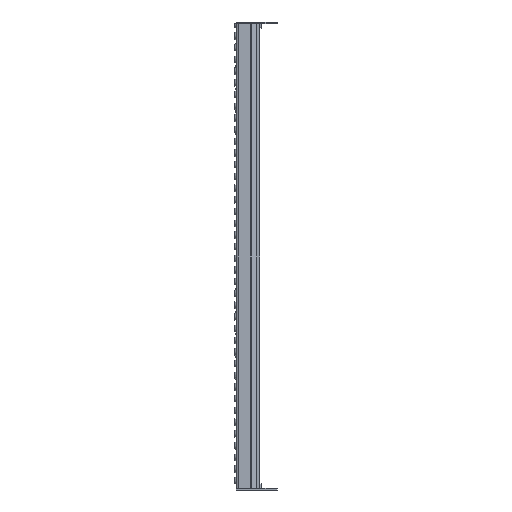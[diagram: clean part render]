
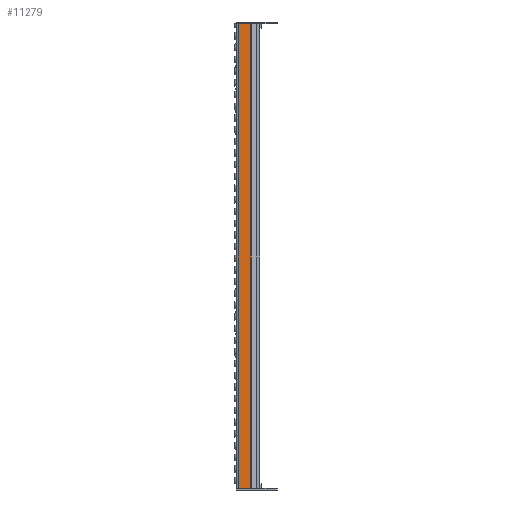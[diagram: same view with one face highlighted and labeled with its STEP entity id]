
A CAD part, left-side view. The second image highlights one B-rep face of the part: STEP entity #11279.
In plain terms, the highlighted planar face has unit normal (-1, 0, 0).
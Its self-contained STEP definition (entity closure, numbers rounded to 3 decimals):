
#1848=FACE_OUTER_BOUND('',#2771,.T.);
#2771=EDGE_LOOP('',(#9936,#9937,#9938,#9939));
#3658=LINE('',#22150,#4626);
#3669=LINE('',#22180,#4637);
#3679=LINE('',#22203,#4647);
#3686=LINE('',#22218,#4654);
#4626=VECTOR('',#15398,10.);
#4637=VECTOR('',#15423,10.);
#4647=VECTOR('',#15445,10.);
#4654=VECTOR('',#15464,10.);
#5677=VERTEX_POINT('',#22147);
#5678=VERTEX_POINT('',#22149);
#5690=VERTEX_POINT('',#22179);
#5697=VERTEX_POINT('',#22202);
#7096=EDGE_CURVE('',#5678,#5677,#3658,.T.);
#7111=EDGE_CURVE('',#5677,#5690,#3669,.T.);
#7123=EDGE_CURVE('',#5697,#5678,#3679,.T.);
#7131=EDGE_CURVE('',#5690,#5697,#3686,.T.);
#9936=ORIENTED_EDGE('',*,*,#7111,.T.);
#9937=ORIENTED_EDGE('',*,*,#7131,.T.);
#9938=ORIENTED_EDGE('',*,*,#7123,.T.);
#9939=ORIENTED_EDGE('',*,*,#7096,.T.);
#10540=PLANE('',#12508);
#11279=ADVANCED_FACE('',(#1848),#10540,.T.);
#12508=AXIS2_PLACEMENT_3D('',#22219,#15465,#15466);
#15398=DIRECTION('',(0.,1.,0.));
#15423=DIRECTION('',(0.,0.,-1.));
#15445=DIRECTION('',(0.,0.,1.));
#15464=DIRECTION('',(0.,-1.,0.));
#15465=DIRECTION('center_axis',(-1.,0.,0.));
#15466=DIRECTION('ref_axis',(0.,0.,1.));
#22147=CARTESIAN_POINT('',(0.,-3.25,794.));
#22149=CARTESIAN_POINT('',(0.,-24.427,794.));
#22150=CARTESIAN_POINT('',(0.,0.,794.));
#22179=CARTESIAN_POINT('',(0.,-3.25,0.));
#22180=CARTESIAN_POINT('',(0.,-3.25,0.));
#22202=CARTESIAN_POINT('',(0.,-24.427,0.));
#22203=CARTESIAN_POINT('',(0.,-24.427,198.5));
#22218=CARTESIAN_POINT('',(0.,0.,0.));
#22219=CARTESIAN_POINT('Origin',(0.,-25.,0.));
